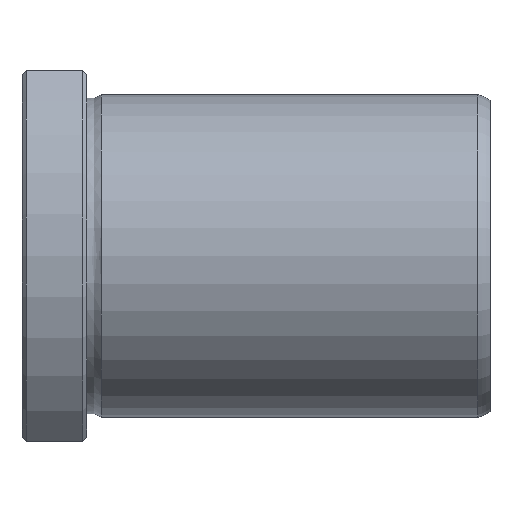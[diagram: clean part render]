
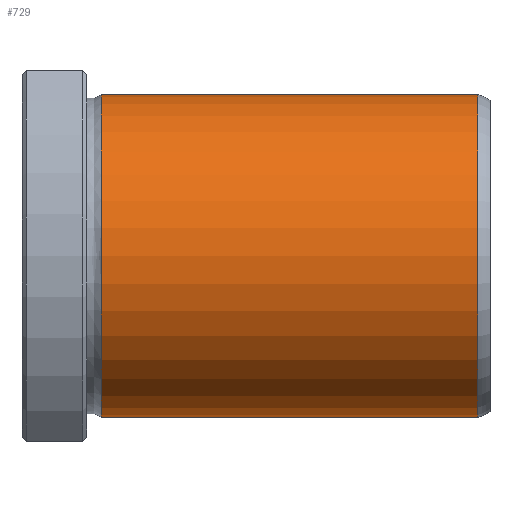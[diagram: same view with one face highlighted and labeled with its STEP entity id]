
A CAD part, top view. The second image highlights one B-rep face of the part: STEP entity #729.
In plain terms, the highlighted cylindrical face has radius 20 mm (diameter 40 mm), a full revolution.
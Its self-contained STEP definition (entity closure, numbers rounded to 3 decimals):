
#695=CARTESIAN_POINT('',(56.502,0.0,20.));
#696=VERTEX_POINT('',#695);
#697=CARTESIAN_POINT('',(56.502,0.0,0.0));
#698=DIRECTION('',(-1.0,0.0,0.0));
#699=DIRECTION('',(0.0,0.0,1.0));
#700=AXIS2_PLACEMENT_3D('',#697,#698,#699);
#701=CIRCLE('',#700,20.);
#702=EDGE_CURVE('',#696,#696,#701,.T.);
#710=CARTESIAN_POINT('',(33.162,0.0,0.0));
#711=DIRECTION('',(-1.0,0.0,0.0));
#712=DIRECTION('',(0.0,0.0,1.0));
#713=AXIS2_PLACEMENT_3D('',#710,#711,#712);
#714=CYLINDRICAL_SURFACE('',#713,20.);
#715=CARTESIAN_POINT('',(9.823,0.0,20.));
#716=VERTEX_POINT('',#715);
#717=CARTESIAN_POINT('',(9.823,0.0,0.0));
#718=DIRECTION('',(-1.0,0.0,0.0));
#719=DIRECTION('',(0.0,0.0,1.0));
#720=AXIS2_PLACEMENT_3D('',#717,#718,#719);
#721=CIRCLE('',#720,20.);
#722=EDGE_CURVE('',#716,#716,#721,.T.);
#723=ORIENTED_EDGE('',*,*,#722,.F.);
#724=EDGE_LOOP('',(#723));
#725=FACE_OUTER_BOUND('',#724,.T.);
#726=ORIENTED_EDGE('',*,*,#702,.T.);
#727=EDGE_LOOP('',(#726));
#728=FACE_BOUND('',#727,.T.);
#729=ADVANCED_FACE('',(#725,#728),#714,.T.);
